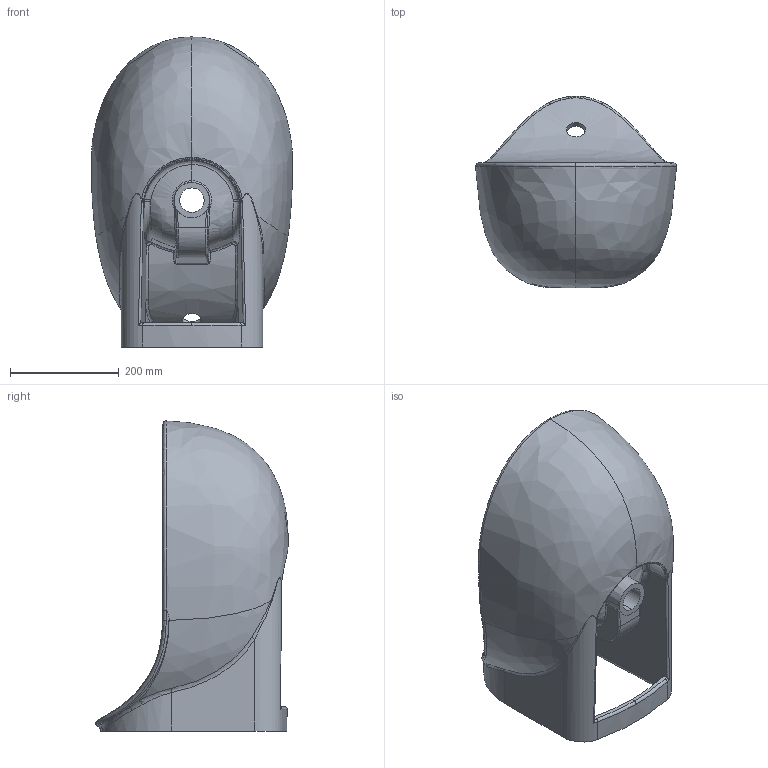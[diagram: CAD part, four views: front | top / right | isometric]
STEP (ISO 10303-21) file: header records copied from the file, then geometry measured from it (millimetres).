
FILE_DESCRIPTION (( 'STEP AP203' ), '1' );
FILE_NAME ('FG510-00CB00E-0000 .STEP', '2022-04-21T08:31:23', ( '' ), ( '' ), 'SwSTEP 2.0', 'SolidWorks 2021', '' );
FILE_SCHEMA (( 'CONFIG_CONTROL_DESIGN' ));
Length unit declared in the file: millimetre
Products named in the file (1): FG510-00CB00E-0000 
Bounding box: 369.7 x 353.45 x 570.16 mm (x, y, z)
Volume: 17103713.5 mm3; surface area: 879467.6 mm2
Topology: 2 solids, 2 shells, 272 faces, 707 edges, 431 vertices
Faces by surface type: bspline 209, plane 26, cylinder 24, cone 7, torus 4, sphere 2
Entity records: 66074 total; most frequent: CARTESIAN_POINT 60915, ORIENTED_EDGE 1404, EDGE_CURVE 702, DIRECTION 594, VERTEX_POINT 431, B_SPLINE_CURVE_WITH_KNOTS 424, EDGE_LOOP 277, FACE_OUTER_BOUND 272
